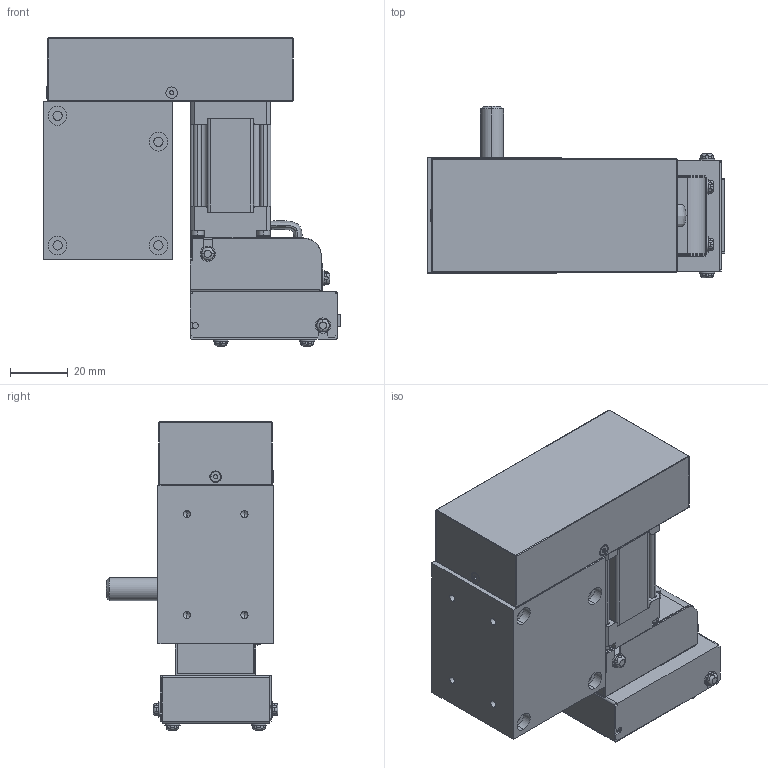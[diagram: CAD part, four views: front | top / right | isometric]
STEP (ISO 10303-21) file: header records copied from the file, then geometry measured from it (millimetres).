
FILE_DESCRIPTION (( 'STEP AP203' ), '1' );
FILE_NAME ('HY070-CM1-11L30-REV1.5.STEP', '2012-07-18T13:35:57', ( 'render' ), ( '' ), 'SwSTEP 2.0', 'SolidWorks 2011', '' );
FILE_SCHEMA (( 'CONFIG_CONTROL_DESIGN' ));
Length unit declared in the file: millimetre
Products named in the file (1): HY070-CM1-11L30-REV1.5
Bounding box: 103.3 x 59.6 x 106.9 mm (x, y, z)
Volume: 195645.6 mm3; surface area: 78523.6 mm2
Topology: 40 solids, 41 shells, 1418 faces, 3582 edges, 2275 vertices
Faces by surface type: plane 690, cylinder 587, cone 85, torus 36, bspline 12, sphere 8
Entity records: 48674 total; most frequent: CARTESIAN_POINT 15479, ORIENTED_EDGE 7104, DIRECTION 6680, EDGE_CURVE 3552, VERTEX_POINT 2275, AXIS2_PLACEMENT_3D 2268, LINE 2144, VECTOR 2144
